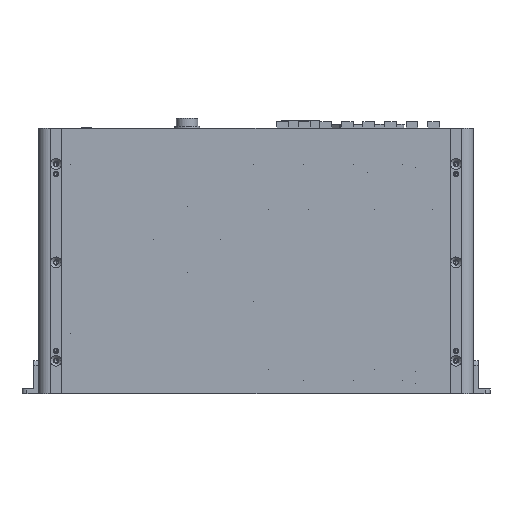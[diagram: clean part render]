
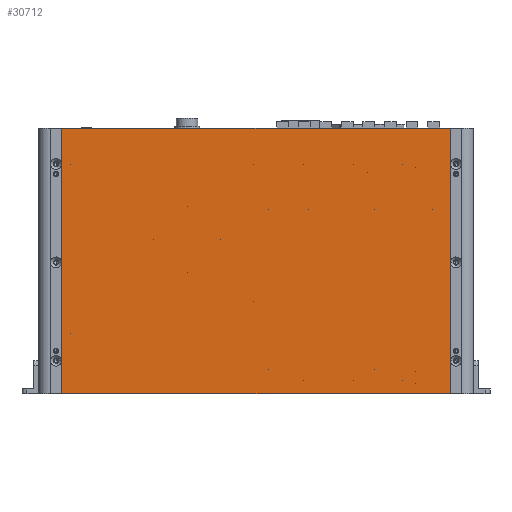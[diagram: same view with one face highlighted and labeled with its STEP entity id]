
A CAD part, front view. The second image highlights one B-rep face of the part: STEP entity #30712.
In plain terms, the highlighted planar face has unit normal (0, -1, 0) as drawn and (0, 0, -1) by its records, which use the part's own axes.
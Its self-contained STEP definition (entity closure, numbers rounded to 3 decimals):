
#15 = ORIENTED_EDGE ( 'NONE', *, *, #172314, .F. ) ;
#2162 = CARTESIAN_POINT ( 'NONE',  ( 117., -80.25, 0. ) ) ;
#3042 = DIRECTION ( 'NONE',  ( 0., -1., 0. ) ) ;
#8969 = VERTEX_POINT ( 'NONE', #24196 ) ;
#19429 = CARTESIAN_POINT ( 'NONE',  ( 117., 0., 0. ) ) ;
#23635 = VERTEX_POINT ( 'NONE', #2162 ) ;
#24196 = CARTESIAN_POINT ( 'NONE',  ( 117., 79.75, 0. ) ) ;
#29545 = LINE ( 'NONE', #123200, #75831 ) ;
#30523 = DIRECTION ( 'NONE',  ( 0., 0., 1. ) ) ;
#30712 = ADVANCED_FACE ( 'NONE', ( #138197 ), #55155, .F. ) ;
#36817 = EDGE_CURVE ( 'NONE', #8969, #71545, #148975, .T. ) ;
#37872 = CARTESIAN_POINT ( 'NONE',  ( 0., -80.25, 0. ) ) ;
#38771 = DIRECTION ( 'NONE',  ( -1., 0., 0. ) ) ;
#42022 = VECTOR ( 'NONE', #113184, 1000. ) ;
#44682 = LINE ( 'NONE', #37872, #168293 ) ;
#51327 = DIRECTION ( 'NONE',  ( 1., 0., 0. ) ) ;
#55155 = PLANE ( 'NONE',  #138418 ) ;
#57222 = CARTESIAN_POINT ( 'NONE',  ( -117., 79.75, 0. ) ) ;
#58858 = VECTOR ( 'NONE', #38771, 1000. ) ;
#71545 = VERTEX_POINT ( 'NONE', #57222 ) ;
#75831 = VECTOR ( 'NONE', #3042, 1000. ) ;
#79866 = EDGE_CURVE ( 'NONE', #158238, #23635, #44682, .T. ) ;
#82659 = CARTESIAN_POINT ( 'NONE',  ( 0., 0., 0. ) ) ;
#83235 = DIRECTION ( 'NONE',  ( 1., 0., 0. ) ) ;
#88052 = ORIENTED_EDGE ( 'NONE', *, *, #172408, .F. ) ;
#92389 = LINE ( 'NONE', #19429, #42022 ) ;
#110142 = ORIENTED_EDGE ( 'NONE', *, *, #36817, .F. ) ;
#113184 = DIRECTION ( 'NONE',  ( 0., 1., 0. ) ) ;
#118825 = CARTESIAN_POINT ( 'NONE',  ( -117., -80.25, 0. ) ) ;
#118968 = CARTESIAN_POINT ( 'NONE',  ( 0., 79.75, 0. ) ) ;
#119689 = EDGE_LOOP ( 'NONE', ( #88052, #122441, #15, #110142 ) ) ;
#122441 = ORIENTED_EDGE ( 'NONE', *, *, #79866, .F. ) ;
#123200 = CARTESIAN_POINT ( 'NONE',  ( -117., 0., 0. ) ) ;
#138197 = FACE_OUTER_BOUND ( 'NONE', #119689, .T. ) ;
#138418 = AXIS2_PLACEMENT_3D ( 'NONE', #82659, #30523, #83235 ) ;
#148975 = LINE ( 'NONE', #118968, #58858 ) ;
#158238 = VERTEX_POINT ( 'NONE', #118825 ) ;
#168293 = VECTOR ( 'NONE', #51327, 1000. ) ;
#172314 = EDGE_CURVE ( 'NONE', #71545, #158238, #29545, .T. ) ;
#172408 = EDGE_CURVE ( 'NONE', #23635, #8969, #92389, .T. ) ;
